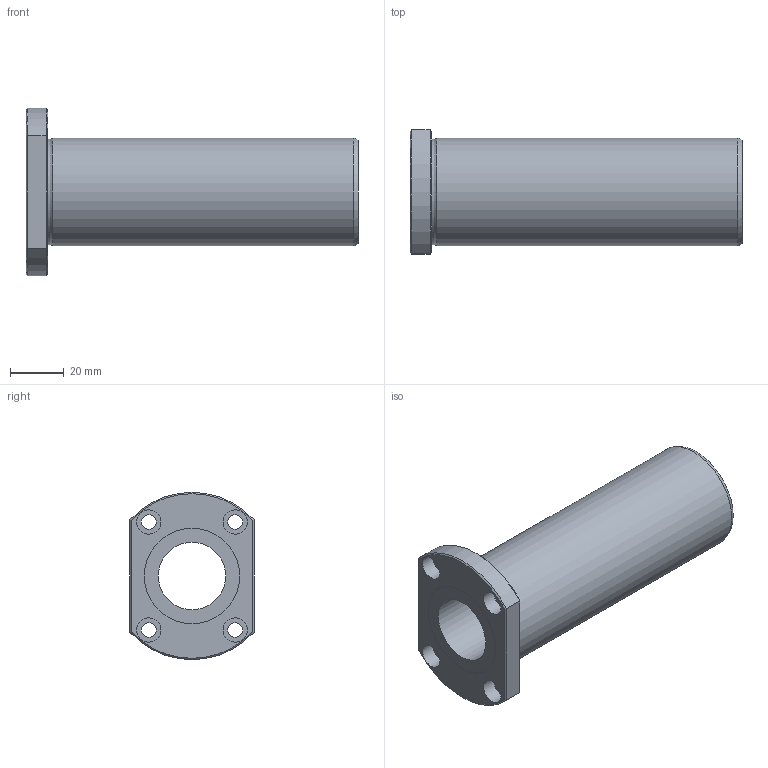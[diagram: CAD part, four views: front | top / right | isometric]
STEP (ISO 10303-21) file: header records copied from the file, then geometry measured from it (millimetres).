
FILE_DESCRIPTION((''),'2;1');
FILE_NAME('D:\製品 (図面)\カタログ用3D\メンテナンスフリー関連\STEP形式\LFDT-MF\LFDT25MF.stp','2010-06-01T15:51:08',('Tsuchiya'),(''),'Autodesk Inventor 10','Autodesk Inventor 10','');
FILE_SCHEMA(('AUTOMOTIVE_DESIGN { 1 0 10303 214 1 1 1 1 }'));
Length unit declared in the file: millimetre
Products named in the file (1): LFDT25MF
Bounding box: 123 x 46 x 62 mm (x, y, z)
Volume: 102744.1 mm3; surface area: 30235.9 mm2
Topology: 1 solids, 1 shells, 35 faces, 68 edges, 42 vertices
Faces by surface type: plane 15, cylinder 14, cone 4, torus 1, bspline 1
Full cylindrical faces by diameter (mm): 5.5 x4, 9 x4, 25 x1, 35.3 x2, 40 x1
Entity records: 935 total; most frequent: CARTESIAN_POINT 218, DIRECTION 150, ORIENTED_EDGE 108, AXIS2_PLACEMENT_3D 69, EDGE_LOOP 66, EDGE_CURVE 54, VERTEX_POINT 42, FACE_OUTER_BOUND 35
